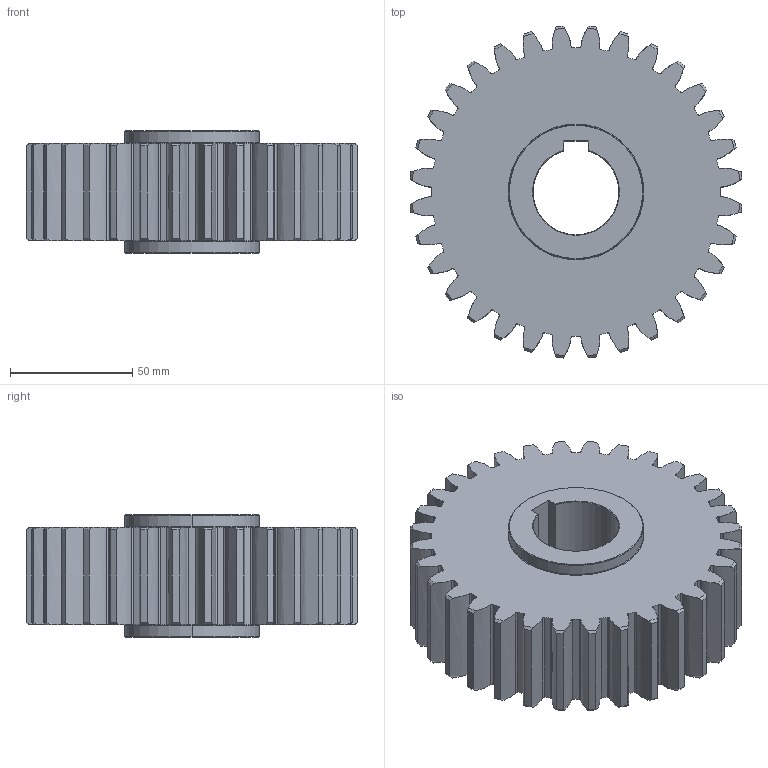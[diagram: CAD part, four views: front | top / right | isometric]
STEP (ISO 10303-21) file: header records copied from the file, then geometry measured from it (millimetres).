
FILE_DESCRIPTION (( 'STEP AP214' ), '1' );
FILE_NAME ('1SG__S040032S.STEP', '2021-08-03T07:51:15', ( '' ), ( '' ), 'SwSTEP 2.0', 'SolidWorks 2021', '' );
FILE_SCHEMA (( 'AUTOMOTIVE_DESIGN' ));
Length unit declared in the file: millimetre
Products named in the file (1): 1SG__S040032S
Bounding box: 135.6 x 135.6 x 50 mm (x, y, z)
Volume: 482618.4 mm3; surface area: 63232 mm2
Topology: 1 solids, 1 shells, 332 faces, 1036 edges, 708 vertices
Faces by surface type: cylinder 119, bspline 96, cone 74, plane 39, torus 4
Entity records: 21010 total; most frequent: CARTESIAN_POINT 12137, ORIENTED_EDGE 2072, DIRECTION 1634, EDGE_CURVE 1036, VERTEX_POINT 708, AXIS2_PLACEMENT_3D 621, VECTOR 392, LINE 392
